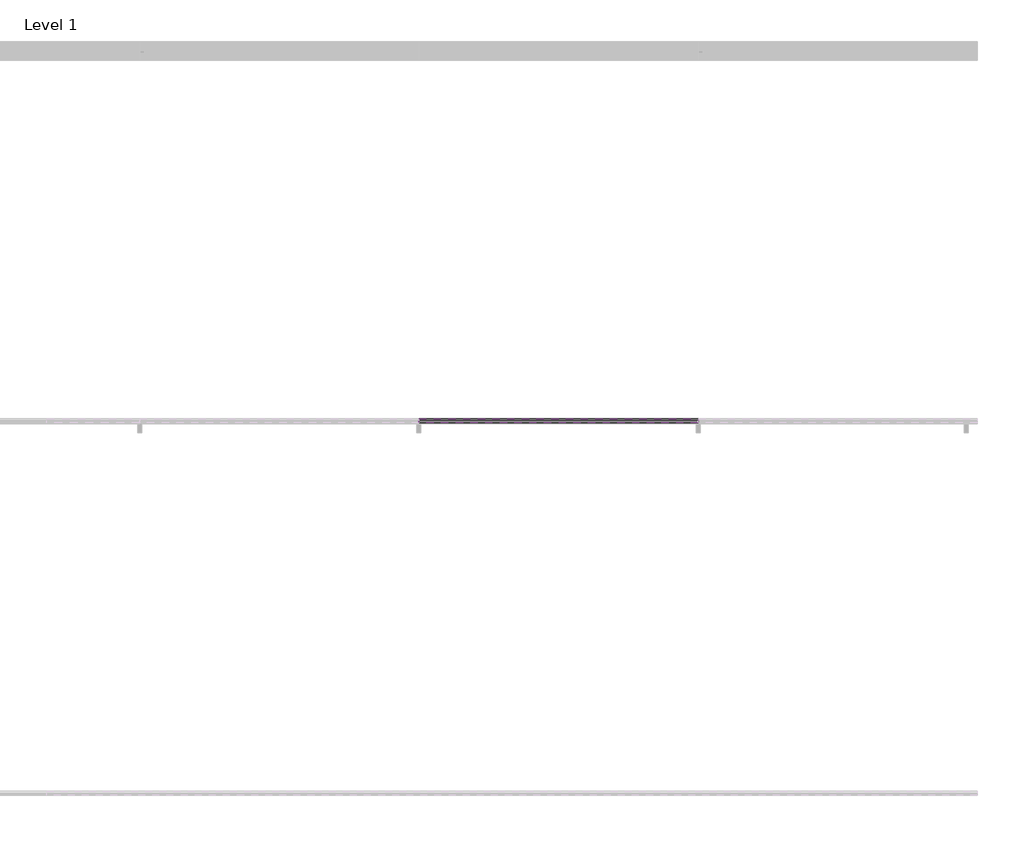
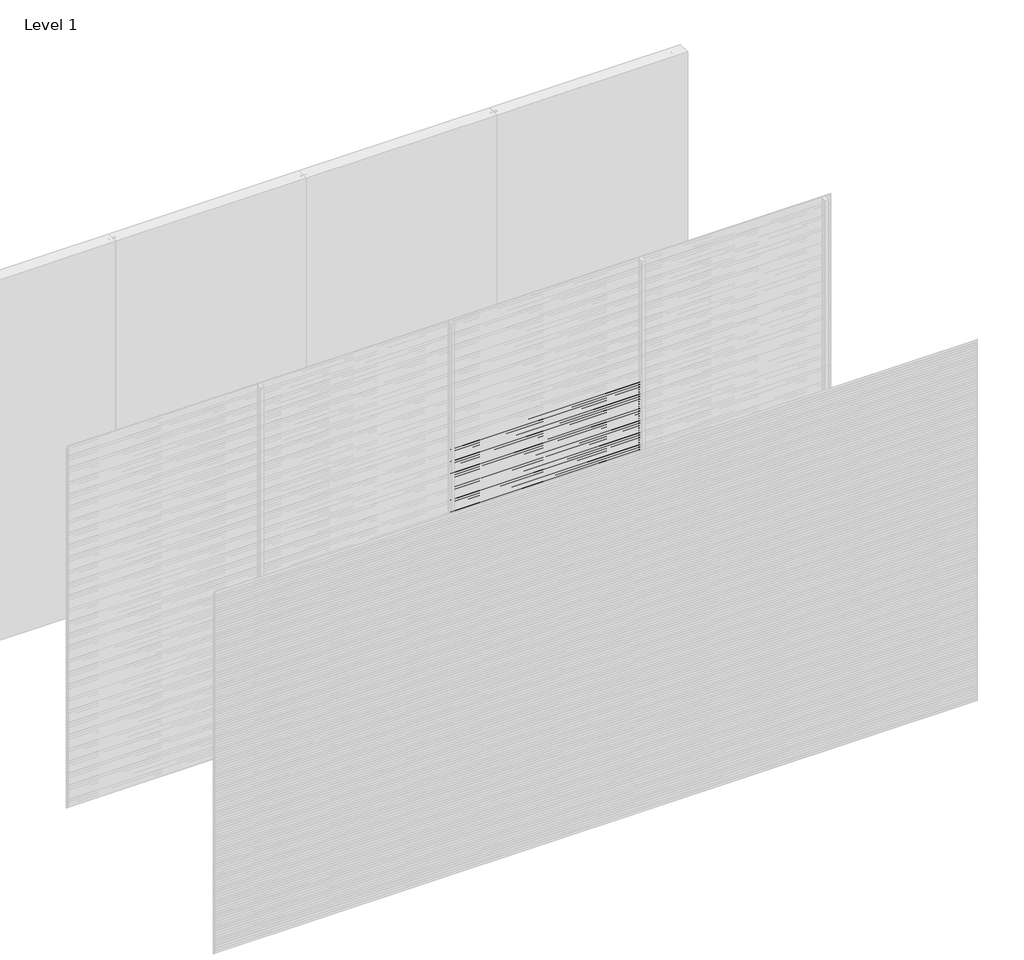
# One storey, part 22 of 31: 99 proxies.
"""IFC4 building model written with IfcOpenShell, lengths in millimetres."""

from ifc_helpers import new_model, si_unit, frame, origin, place, context, project, spatial, polyline, outline, extrude, element, save

model = new_model("IFC4")

# Units and contexts
model_context = context("Model", 3, world=origin())
ifc_project = project(units=[si_unit("LENGTHUNIT", "METRE", prefix="MILLI")], contexts=[model_context])

# Site, building, storey
site = spatial("IfcSite", under=ifc_project)
building = spatial("IfcBuilding", under=site)
storey = spatial("IfcBuildingStorey", under=building, Name="Level 1", Elevation=0.0)

# Proxies
placement = place(None, origin())
element("IfcBuildingElementProxy", 1, Name="Wall Sweeps", at=placement, inside=storey, context=model_context, shape_type="SweptSolid", body=[
    extrude(outline(polyline([(-5995.0, 1980.0), (-5995.0, 1968.942893), (-5976.0, 1953.0), (-5976.0, 1940.0), (-5997.0, 1957.6210923), (-5997.0, 1980.0), (-5995.0, 1980.0)])), frame((3000.0, 0.0, 0.0), z_axis=(1.0, 0.0, 0.0), x_axis=(0.0, 1.0, 0.0)), (0.0, 0.0, 1.0), 1500.0),
])
element("IfcBuildingElementProxy", 2, Name="Wall Sweeps", at=placement, inside=storey, context=model_context, shape_type="SweptSolid", body=[
    extrude(outline(polyline([(-5995.0, 1960.0), (-5995.0, 1948.942893), (-5976.0, 1933.0), (-5976.0, 1920.0), (-5997.0, 1937.6210923), (-5997.0, 1960.0), (-5995.0, 1960.0)])), frame((3000.0, 0.0, 0.0), z_axis=(1.0, 0.0, 0.0), x_axis=(0.0, 1.0, 0.0)), (0.0, 0.0, 1.0), 1500.0),
])
element("IfcBuildingElementProxy", 3, Name="Wall Sweeps", at=placement, inside=storey, context=model_context, shape_type="SweptSolid", body=[
    extrude(outline(polyline([(-5995.0, 1940.0), (-5995.0, 1928.942893), (-5976.0, 1913.0), (-5976.0, 1900.0), (-5997.0, 1917.6210923), (-5997.0, 1940.0), (-5995.0, 1940.0)])), frame((3000.0, 0.0, 0.0), z_axis=(1.0, 0.0, 0.0), x_axis=(0.0, 1.0, 0.0)), (0.0, 0.0, 1.0), 1500.0),
])
element("IfcBuildingElementProxy", 4, Name="Wall Sweeps", at=placement, inside=storey, context=model_context, shape_type="SweptSolid", body=[
    extrude(outline(polyline([(-5995.0, 1920.0), (-5995.0, 1908.942893), (-5976.0, 1893.0), (-5976.0, 1880.0), (-5997.0, 1897.6210923), (-5997.0, 1920.0), (-5995.0, 1920.0)])), frame((3000.0, 0.0, 0.0), z_axis=(1.0, 0.0, 0.0), x_axis=(0.0, 1.0, 0.0)), (0.0, 0.0, 1.0), 1500.0),
])
element("IfcBuildingElementProxy", 5, Name="Wall Sweeps", at=placement, inside=storey, context=model_context, shape_type="SweptSolid", body=[
    extrude(outline(polyline([(-5995.0, 1900.0), (-5995.0, 1888.942893), (-5976.0, 1873.0), (-5976.0, 1860.0), (-5997.0, 1877.6210923), (-5997.0, 1900.0), (-5995.0, 1900.0)])), frame((3000.0, 0.0, 0.0), z_axis=(1.0, 0.0, 0.0), x_axis=(0.0, 1.0, 0.0)), (0.0, 0.0, 1.0), 1500.0),
])
element("IfcBuildingElementProxy", 6, Name="Wall Sweeps", at=placement, inside=storey, context=model_context, shape_type="SweptSolid", body=[
    extrude(outline(polyline([(-5995.0, 1880.0), (-5995.0, 1868.942893), (-5976.0, 1853.0), (-5976.0, 1840.0), (-5997.0, 1857.6210923), (-5997.0, 1880.0), (-5995.0, 1880.0)])), frame((3000.0, 0.0, 0.0), z_axis=(1.0, 0.0, 0.0), x_axis=(0.0, 1.0, 0.0)), (0.0, 0.0, 1.0), 1500.0),
])
element("IfcBuildingElementProxy", 7, Name="Wall Sweeps", at=placement, inside=storey, context=model_context, shape_type="SweptSolid", body=[
    extrude(outline(polyline([(-5995.0, 1860.0), (-5995.0, 1848.942893), (-5976.0, 1833.0), (-5976.0, 1820.0), (-5997.0, 1837.6210923), (-5997.0, 1860.0), (-5995.0, 1860.0)])), frame((3000.0, 0.0, 0.0), z_axis=(1.0, 0.0, 0.0), x_axis=(0.0, 1.0, 0.0)), (0.0, 0.0, 1.0), 1500.0),
])
element("IfcBuildingElementProxy", 8, Name="Wall Sweeps", at=placement, inside=storey, context=model_context, shape_type="SweptSolid", body=[
    extrude(outline(polyline([(-5995.0, 1840.0), (-5995.0, 1828.942893), (-5976.0, 1813.0), (-5976.0, 1800.0), (-5997.0, 1817.6210923), (-5997.0, 1840.0), (-5995.0, 1840.0)])), frame((3000.0, 0.0, 0.0), z_axis=(1.0, 0.0, 0.0), x_axis=(0.0, 1.0, 0.0)), (0.0, 0.0, 1.0), 1500.0),
])
element("IfcBuildingElementProxy", 9, Name="Wall Sweeps", at=placement, inside=storey, context=model_context, shape_type="SweptSolid", body=[
    extrude(outline(polyline([(-5995.0, 1820.0), (-5995.0, 1808.942893), (-5976.0, 1793.0), (-5976.0, 1780.0), (-5997.0, 1797.6210923), (-5997.0, 1820.0), (-5995.0, 1820.0)])), frame((3000.0, 0.0, 0.0), z_axis=(1.0, 0.0, 0.0), x_axis=(0.0, 1.0, 0.0)), (0.0, 0.0, 1.0), 1500.0),
])
element("IfcBuildingElementProxy", 10, Name="Wall Sweeps", at=placement, inside=storey, context=model_context, shape_type="SweptSolid", body=[
    extrude(outline(polyline([(-5995.0, 1800.0), (-5995.0, 1788.942893), (-5976.0, 1773.0), (-5976.0, 1760.0), (-5997.0, 1777.6210923), (-5997.0, 1800.0), (-5995.0, 1800.0)])), frame((3000.0, 0.0, 0.0), z_axis=(1.0, 0.0, 0.0), x_axis=(0.0, 1.0, 0.0)), (0.0, 0.0, 1.0), 1500.0),
])
element("IfcBuildingElementProxy", 11, Name="Wall Sweeps", at=placement, inside=storey, context=model_context, shape_type="SweptSolid", body=[
    extrude(outline(polyline([(-5995.0, 1780.0), (-5995.0, 1768.942893), (-5976.0, 1753.0), (-5976.0, 1740.0), (-5997.0, 1757.6210923), (-5997.0, 1780.0), (-5995.0, 1780.0)])), frame((3000.0, 0.0, 0.0), z_axis=(1.0, 0.0, 0.0), x_axis=(0.0, 1.0, 0.0)), (0.0, 0.0, 1.0), 1500.0),
])
element("IfcBuildingElementProxy", 12, Name="Wall Sweeps", at=placement, inside=storey, context=model_context, shape_type="SweptSolid", body=[
    extrude(outline(polyline([(-5995.0, 1760.0), (-5995.0, 1748.942893), (-5976.0, 1733.0), (-5976.0, 1720.0), (-5997.0, 1737.6210923), (-5997.0, 1760.0), (-5995.0, 1760.0)])), frame((3000.0, 0.0, 0.0), z_axis=(1.0, 0.0, 0.0), x_axis=(0.0, 1.0, 0.0)), (0.0, 0.0, 1.0), 1500.0),
])
element("IfcBuildingElementProxy", 13, Name="Wall Sweeps", at=placement, inside=storey, context=model_context, shape_type="SweptSolid", body=[
    extrude(outline(polyline([(-5995.0, 1740.0), (-5995.0, 1728.942893), (-5976.0, 1713.0), (-5976.0, 1700.0), (-5997.0, 1717.6210923), (-5997.0, 1740.0), (-5995.0, 1740.0)])), frame((3000.0, 0.0, 0.0), z_axis=(1.0, 0.0, 0.0), x_axis=(0.0, 1.0, 0.0)), (0.0, 0.0, 1.0), 1500.0),
])
element("IfcBuildingElementProxy", 14, Name="Wall Sweeps", at=placement, inside=storey, context=model_context, shape_type="SweptSolid", body=[
    extrude(outline(polyline([(-5995.0, 1720.0), (-5995.0, 1708.942893), (-5976.0, 1693.0), (-5976.0, 1680.0), (-5997.0, 1697.6210923), (-5997.0, 1720.0), (-5995.0, 1720.0)])), frame((3000.0, 0.0, 0.0), z_axis=(1.0, 0.0, 0.0), x_axis=(0.0, 1.0, 0.0)), (0.0, 0.0, 1.0), 1500.0),
])
element("IfcBuildingElementProxy", 15, Name="Wall Sweeps", at=placement, inside=storey, context=model_context, shape_type="SweptSolid", body=[
    extrude(outline(polyline([(-5995.0, 1700.0), (-5995.0, 1688.942893), (-5976.0, 1673.0), (-5976.0, 1660.0), (-5997.0, 1677.6210923), (-5997.0, 1700.0), (-5995.0, 1700.0)])), frame((3000.0, 0.0, 0.0), z_axis=(1.0, 0.0, 0.0), x_axis=(0.0, 1.0, 0.0)), (0.0, 0.0, 1.0), 1500.0),
])
element("IfcBuildingElementProxy", 16, Name="Wall Sweeps", at=placement, inside=storey, context=model_context, shape_type="SweptSolid", body=[
    extrude(outline(polyline([(-5995.0, 1680.0), (-5995.0, 1668.942893), (-5976.0, 1653.0), (-5976.0, 1640.0), (-5997.0, 1657.6210923), (-5997.0, 1680.0), (-5995.0, 1680.0)])), frame((3000.0, 0.0, 0.0), z_axis=(1.0, 0.0, 0.0), x_axis=(0.0, 1.0, 0.0)), (0.0, 0.0, 1.0), 1500.0),
])
element("IfcBuildingElementProxy", 17, Name="Wall Sweeps", at=placement, inside=storey, context=model_context, shape_type="SweptSolid", body=[
    extrude(outline(polyline([(-5995.0, 1660.0), (-5995.0, 1648.942893), (-5976.0, 1633.0), (-5976.0, 1620.0), (-5997.0, 1637.6210923), (-5997.0, 1660.0), (-5995.0, 1660.0)])), frame((3000.0, 0.0, 0.0), z_axis=(1.0, 0.0, 0.0), x_axis=(0.0, 1.0, 0.0)), (0.0, 0.0, 1.0), 1500.0),
])
element("IfcBuildingElementProxy", 18, Name="Wall Sweeps", at=placement, inside=storey, context=model_context, shape_type="SweptSolid", body=[
    extrude(outline(polyline([(-5995.0, 1640.0), (-5995.0, 1628.942893), (-5976.0, 1613.0), (-5976.0, 1600.0), (-5997.0, 1617.6210923), (-5997.0, 1640.0), (-5995.0, 1640.0)])), frame((3000.0, 0.0, 0.0), z_axis=(1.0, 0.0, 0.0), x_axis=(0.0, 1.0, 0.0)), (0.0, 0.0, 1.0), 1500.0),
])
element("IfcBuildingElementProxy", 19, Name="Wall Sweeps", at=placement, inside=storey, context=model_context, shape_type="SweptSolid", body=[
    extrude(outline(polyline([(-5995.0, 1620.0), (-5995.0, 1608.942893), (-5976.0, 1593.0), (-5976.0, 1580.0), (-5997.0, 1597.6210923), (-5997.0, 1620.0), (-5995.0, 1620.0)])), frame((3000.0, 0.0, 0.0), z_axis=(1.0, 0.0, 0.0), x_axis=(0.0, 1.0, 0.0)), (0.0, 0.0, 1.0), 1500.0),
])
element("IfcBuildingElementProxy", 20, Name="Wall Sweeps", at=placement, inside=storey, context=model_context, shape_type="SweptSolid", body=[
    extrude(outline(polyline([(-5995.0, 1600.0), (-5995.0, 1588.942893), (-5976.0, 1573.0), (-5976.0, 1560.0), (-5997.0, 1577.6210923), (-5997.0, 1600.0), (-5995.0, 1600.0)])), frame((3000.0, 0.0, 0.0), z_axis=(1.0, 0.0, 0.0), x_axis=(0.0, 1.0, 0.0)), (0.0, 0.0, 1.0), 1500.0),
])
element("IfcBuildingElementProxy", 21, Name="Wall Sweeps", at=placement, inside=storey, context=model_context, shape_type="SweptSolid", body=[
    extrude(outline(polyline([(-5995.0, 1580.0), (-5995.0, 1568.942893), (-5976.0, 1553.0), (-5976.0, 1540.0), (-5997.0, 1557.6210923), (-5997.0, 1580.0), (-5995.0, 1580.0)])), frame((3000.0, 0.0, 0.0), z_axis=(1.0, 0.0, 0.0), x_axis=(0.0, 1.0, 0.0)), (0.0, 0.0, 1.0), 1500.0),
])
element("IfcBuildingElementProxy", 22, Name="Wall Sweeps", at=placement, inside=storey, context=model_context, shape_type="SweptSolid", body=[
    extrude(outline(polyline([(-5995.0, 1560.0), (-5995.0, 1548.942893), (-5976.0, 1533.0), (-5976.0, 1520.0), (-5997.0, 1537.6210923), (-5997.0, 1560.0), (-5995.0, 1560.0)])), frame((3000.0, 0.0, 0.0), z_axis=(1.0, 0.0, 0.0), x_axis=(0.0, 1.0, 0.0)), (0.0, 0.0, 1.0), 1500.0),
])
element("IfcBuildingElementProxy", 23, Name="Wall Sweeps", at=placement, inside=storey, context=model_context, shape_type="SweptSolid", body=[
    extrude(outline(polyline([(-5995.0, 1540.0), (-5995.0, 1528.942893), (-5976.0, 1513.0), (-5976.0, 1500.0), (-5997.0, 1517.6210923), (-5997.0, 1540.0), (-5995.0, 1540.0)])), frame((3000.0, 0.0, 0.0), z_axis=(1.0, 0.0, 0.0), x_axis=(0.0, 1.0, 0.0)), (0.0, 0.0, 1.0), 1500.0),
])
element("IfcBuildingElementProxy", 24, Name="Wall Sweeps", at=placement, inside=storey, context=model_context, shape_type="SweptSolid", body=[
    extrude(outline(polyline([(-5995.0, 1520.0), (-5995.0, 1508.942893), (-5976.0, 1493.0), (-5976.0, 1480.0), (-5997.0, 1497.6210923), (-5997.0, 1520.0), (-5995.0, 1520.0)])), frame((3000.0, 0.0, 0.0), z_axis=(1.0, 0.0, 0.0), x_axis=(0.0, 1.0, 0.0)), (0.0, 0.0, 1.0), 1500.0),
])
element("IfcBuildingElementProxy", 25, Name="Wall Sweeps", at=placement, inside=storey, context=model_context, shape_type="SweptSolid", body=[
    extrude(outline(polyline([(-5995.0, 1500.0), (-5995.0, 1488.942893), (-5976.0, 1473.0), (-5976.0, 1460.0), (-5997.0, 1477.6210923), (-5997.0, 1500.0), (-5995.0, 1500.0)])), frame((3000.0, 0.0, 0.0), z_axis=(1.0, 0.0, 0.0), x_axis=(0.0, 1.0, 0.0)), (0.0, 0.0, 1.0), 1500.0),
])
element("IfcBuildingElementProxy", 26, Name="Wall Sweeps", at=placement, inside=storey, context=model_context, shape_type="SweptSolid", body=[
    extrude(outline(polyline([(-5995.0, 1480.0), (-5995.0, 1468.942893), (-5976.0, 1453.0), (-5976.0, 1440.0), (-5997.0, 1457.6210923), (-5997.0, 1480.0), (-5995.0, 1480.0)])), frame((3000.0, 0.0, 0.0), z_axis=(1.0, 0.0, 0.0), x_axis=(0.0, 1.0, 0.0)), (0.0, 0.0, 1.0), 1500.0),
])
element("IfcBuildingElementProxy", 27, Name="Wall Sweeps", at=placement, inside=storey, context=model_context, shape_type="SweptSolid", body=[
    extrude(outline(polyline([(-5995.0, 1460.0), (-5995.0, 1448.942893), (-5976.0, 1433.0), (-5976.0, 1420.0), (-5997.0, 1437.6210923), (-5997.0, 1460.0), (-5995.0, 1460.0)])), frame((3000.0, 0.0, 0.0), z_axis=(1.0, 0.0, 0.0), x_axis=(0.0, 1.0, 0.0)), (0.0, 0.0, 1.0), 1500.0),
])
element("IfcBuildingElementProxy", 28, Name="Wall Sweeps", at=placement, inside=storey, context=model_context, shape_type="SweptSolid", body=[
    extrude(outline(polyline([(-5995.0, 1440.0), (-5995.0, 1428.942893), (-5976.0, 1413.0), (-5976.0, 1400.0), (-5997.0, 1417.6210923), (-5997.0, 1440.0), (-5995.0, 1440.0)])), frame((3000.0, 0.0, 0.0), z_axis=(1.0, 0.0, 0.0), x_axis=(0.0, 1.0, 0.0)), (0.0, 0.0, 1.0), 1500.0),
])
element("IfcBuildingElementProxy", 29, Name="Wall Sweeps", at=placement, inside=storey, context=model_context, shape_type="SweptSolid", body=[
    extrude(outline(polyline([(-5995.0, 1420.0), (-5995.0, 1408.942893), (-5976.0, 1393.0), (-5976.0, 1380.0), (-5997.0, 1397.6210923), (-5997.0, 1420.0), (-5995.0, 1420.0)])), frame((3000.0, 0.0, 0.0), z_axis=(1.0, 0.0, 0.0), x_axis=(0.0, 1.0, 0.0)), (0.0, 0.0, 1.0), 1500.0),
])
element("IfcBuildingElementProxy", 30, Name="Wall Sweeps", at=placement, inside=storey, context=model_context, shape_type="SweptSolid", body=[
    extrude(outline(polyline([(-5995.0, 1400.0), (-5995.0, 1388.942893), (-5976.0, 1373.0), (-5976.0, 1360.0), (-5997.0, 1377.6210923), (-5997.0, 1400.0), (-5995.0, 1400.0)])), frame((3000.0, 0.0, 0.0), z_axis=(1.0, 0.0, 0.0), x_axis=(0.0, 1.0, 0.0)), (0.0, 0.0, 1.0), 1500.0),
])
element("IfcBuildingElementProxy", 31, Name="Wall Sweeps", at=placement, inside=storey, context=model_context, shape_type="SweptSolid", body=[
    extrude(outline(polyline([(-5995.0, 1380.0), (-5995.0, 1368.942893), (-5976.0, 1353.0), (-5976.0, 1340.0), (-5997.0, 1357.6210923), (-5997.0, 1380.0), (-5995.0, 1380.0)])), frame((3000.0, 0.0, 0.0), z_axis=(1.0, 0.0, 0.0), x_axis=(0.0, 1.0, 0.0)), (0.0, 0.0, 1.0), 1500.0),
])
element("IfcBuildingElementProxy", 32, Name="Wall Sweeps", at=placement, inside=storey, context=model_context, shape_type="SweptSolid", body=[
    extrude(outline(polyline([(-5995.0, 1360.0), (-5995.0, 1348.942893), (-5976.0, 1333.0), (-5976.0, 1320.0), (-5997.0, 1337.6210923), (-5997.0, 1360.0), (-5995.0, 1360.0)])), frame((3000.0, 0.0, 0.0), z_axis=(1.0, 0.0, 0.0), x_axis=(0.0, 1.0, 0.0)), (0.0, 0.0, 1.0), 1500.0),
])
element("IfcBuildingElementProxy", 33, Name="Wall Sweeps", at=placement, inside=storey, context=model_context, shape_type="SweptSolid", body=[
    extrude(outline(polyline([(-5995.0, 1340.0), (-5995.0, 1328.942893), (-5976.0, 1313.0), (-5976.0, 1300.0), (-5997.0, 1317.6210923), (-5997.0, 1340.0), (-5995.0, 1340.0)])), frame((3000.0, 0.0, 0.0), z_axis=(1.0, 0.0, 0.0), x_axis=(0.0, 1.0, 0.0)), (0.0, 0.0, 1.0), 1500.0),
])
element("IfcBuildingElementProxy", 34, Name="Wall Sweeps", at=placement, inside=storey, context=model_context, shape_type="SweptSolid", body=[
    extrude(outline(polyline([(-5995.0, 1320.0), (-5995.0, 1308.942893), (-5976.0, 1293.0), (-5976.0, 1280.0), (-5997.0, 1297.6210923), (-5997.0, 1320.0), (-5995.0, 1320.0)])), frame((3000.0, 0.0, 0.0), z_axis=(1.0, 0.0, 0.0), x_axis=(0.0, 1.0, 0.0)), (0.0, 0.0, 1.0), 1500.0),
])
element("IfcBuildingElementProxy", 35, Name="Wall Sweeps", at=placement, inside=storey, context=model_context, shape_type="SweptSolid", body=[
    extrude(outline(polyline([(-5995.0, 1300.0), (-5995.0, 1288.942893), (-5976.0, 1273.0), (-5976.0, 1260.0), (-5997.0, 1277.6210923), (-5997.0, 1300.0), (-5995.0, 1300.0)])), frame((3000.0, 0.0, 0.0), z_axis=(1.0, 0.0, 0.0), x_axis=(0.0, 1.0, 0.0)), (0.0, 0.0, 1.0), 1500.0),
])
element("IfcBuildingElementProxy", 36, Name="Wall Sweeps", at=placement, inside=storey, context=model_context, shape_type="SweptSolid", body=[
    extrude(outline(polyline([(-5995.0, 1280.0), (-5995.0, 1268.942893), (-5976.0, 1253.0), (-5976.0, 1240.0), (-5997.0, 1257.6210923), (-5997.0, 1280.0), (-5995.0, 1280.0)])), frame((3000.0, 0.0, 0.0), z_axis=(1.0, 0.0, 0.0), x_axis=(0.0, 1.0, 0.0)), (0.0, 0.0, 1.0), 1500.0),
])
element("IfcBuildingElementProxy", 37, Name="Wall Sweeps", at=placement, inside=storey, context=model_context, shape_type="SweptSolid", body=[
    extrude(outline(polyline([(-5995.0, 1260.0), (-5995.0, 1248.942893), (-5976.0, 1233.0), (-5976.0, 1220.0), (-5997.0, 1237.6210923), (-5997.0, 1260.0), (-5995.0, 1260.0)])), frame((3000.0, 0.0, 0.0), z_axis=(1.0, 0.0, 0.0), x_axis=(0.0, 1.0, 0.0)), (0.0, 0.0, 1.0), 1500.0),
])
element("IfcBuildingElementProxy", 38, Name="Wall Sweeps", at=placement, inside=storey, context=model_context, shape_type="SweptSolid", body=[
    extrude(outline(polyline([(-5995.0, 1240.0), (-5995.0, 1228.942893), (-5976.0, 1213.0), (-5976.0, 1200.0), (-5997.0, 1217.6210923), (-5997.0, 1240.0), (-5995.0, 1240.0)])), frame((3000.0, 0.0, 0.0), z_axis=(1.0, 0.0, 0.0), x_axis=(0.0, 1.0, 0.0)), (0.0, 0.0, 1.0), 1500.0),
])
element("IfcBuildingElementProxy", 39, Name="Wall Sweeps", at=placement, inside=storey, context=model_context, shape_type="SweptSolid", body=[
    extrude(outline(polyline([(-5995.0, 1220.0), (-5995.0, 1208.942893), (-5976.0, 1193.0), (-5976.0, 1180.0), (-5997.0, 1197.6210923), (-5997.0, 1220.0), (-5995.0, 1220.0)])), frame((3000.0, 0.0, 0.0), z_axis=(1.0, 0.0, 0.0), x_axis=(0.0, 1.0, 0.0)), (0.0, 0.0, 1.0), 1500.0),
])
element("IfcBuildingElementProxy", 40, Name="Wall Sweeps", at=placement, inside=storey, context=model_context, shape_type="SweptSolid", body=[
    extrude(outline(polyline([(-5995.0, 1200.0), (-5995.0, 1188.942893), (-5976.0, 1173.0), (-5976.0, 1160.0), (-5997.0, 1177.6210923), (-5997.0, 1200.0), (-5995.0, 1200.0)])), frame((3000.0, 0.0, 0.0), z_axis=(1.0, 0.0, 0.0), x_axis=(0.0, 1.0, 0.0)), (0.0, 0.0, 1.0), 1500.0),
])
element("IfcBuildingElementProxy", 41, Name="Wall Sweeps", at=placement, inside=storey, context=model_context, shape_type="SweptSolid", body=[
    extrude(outline(polyline([(-5995.0, 1180.0), (-5995.0, 1168.942893), (-5976.0, 1153.0), (-5976.0, 1140.0), (-5997.0, 1157.6210923), (-5997.0, 1180.0), (-5995.0, 1180.0)])), frame((3000.0, 0.0, 0.0), z_axis=(1.0, 0.0, 0.0), x_axis=(0.0, 1.0, 0.0)), (0.0, 0.0, 1.0), 1500.0),
])
element("IfcBuildingElementProxy", 42, Name="Wall Sweeps", at=placement, inside=storey, context=model_context, shape_type="SweptSolid", body=[
    extrude(outline(polyline([(-5995.0, 1160.0), (-5995.0, 1148.942893), (-5976.0, 1133.0), (-5976.0, 1120.0), (-5997.0, 1137.6210923), (-5997.0, 1160.0), (-5995.0, 1160.0)])), frame((3000.0, 0.0, 0.0), z_axis=(1.0, 0.0, 0.0), x_axis=(0.0, 1.0, 0.0)), (0.0, 0.0, 1.0), 1500.0),
])
element("IfcBuildingElementProxy", 43, Name="Wall Sweeps", at=placement, inside=storey, context=model_context, shape_type="SweptSolid", body=[
    extrude(outline(polyline([(-5995.0, 1140.0), (-5995.0, 1128.942893), (-5976.0, 1113.0), (-5976.0, 1100.0), (-5997.0, 1117.6210923), (-5997.0, 1140.0), (-5995.0, 1140.0)])), frame((3000.0, 0.0, 0.0), z_axis=(1.0, 0.0, 0.0), x_axis=(0.0, 1.0, 0.0)), (0.0, 0.0, 1.0), 1500.0),
])
element("IfcBuildingElementProxy", 44, Name="Wall Sweeps", at=placement, inside=storey, context=model_context, shape_type="SweptSolid", body=[
    extrude(outline(polyline([(-5995.0, 1120.0), (-5995.0, 1108.942893), (-5976.0, 1093.0), (-5976.0, 1080.0), (-5997.0, 1097.6210923), (-5997.0, 1120.0), (-5995.0, 1120.0)])), frame((3000.0, 0.0, 0.0), z_axis=(1.0, 0.0, 0.0), x_axis=(0.0, 1.0, 0.0)), (0.0, 0.0, 1.0), 1500.0),
])
element("IfcBuildingElementProxy", 45, Name="Wall Sweeps", at=placement, inside=storey, context=model_context, shape_type="SweptSolid", body=[
    extrude(outline(polyline([(-5995.0, 1100.0), (-5995.0, 1088.942893), (-5976.0, 1073.0), (-5976.0, 1060.0), (-5997.0, 1077.6210923), (-5997.0, 1100.0), (-5995.0, 1100.0)])), frame((3000.0, 0.0, 0.0), z_axis=(1.0, 0.0, 0.0), x_axis=(0.0, 1.0, 0.0)), (0.0, 0.0, 1.0), 1500.0),
])
element("IfcBuildingElementProxy", 46, Name="Wall Sweeps", at=placement, inside=storey, context=model_context, shape_type="SweptSolid", body=[
    extrude(outline(polyline([(-5995.0, 1080.0), (-5995.0, 1068.942893), (-5976.0, 1053.0), (-5976.0, 1040.0), (-5997.0, 1057.6210923), (-5997.0, 1080.0), (-5995.0, 1080.0)])), frame((3000.0, 0.0, 0.0), z_axis=(1.0, 0.0, 0.0), x_axis=(0.0, 1.0, 0.0)), (0.0, 0.0, 1.0), 1500.0),
])
element("IfcBuildingElementProxy", 47, Name="Wall Sweeps", at=placement, inside=storey, context=model_context, shape_type="SweptSolid", body=[
    extrude(outline(polyline([(-5995.0, 1060.0), (-5995.0, 1048.942893), (-5976.0, 1033.0), (-5976.0, 1020.0), (-5997.0, 1037.6210923), (-5997.0, 1060.0), (-5995.0, 1060.0)])), frame((3000.0, 0.0, 0.0), z_axis=(1.0, 0.0, 0.0), x_axis=(0.0, 1.0, 0.0)), (0.0, 0.0, 1.0), 1500.0),
])
element("IfcBuildingElementProxy", 48, Name="Wall Sweeps", at=placement, inside=storey, context=model_context, shape_type="SweptSolid", body=[
    extrude(outline(polyline([(-5995.0, 1040.0), (-5995.0, 1028.942893), (-5976.0, 1013.0), (-5976.0, 1000.0), (-5997.0, 1017.6210923), (-5997.0, 1040.0), (-5995.0, 1040.0)])), frame((3000.0, 0.0, 0.0), z_axis=(1.0, 0.0, 0.0), x_axis=(0.0, 1.0, 0.0)), (0.0, 0.0, 1.0), 1500.0),
])
element("IfcBuildingElementProxy", 49, Name="Wall Sweeps", at=placement, inside=storey, context=model_context, shape_type="SweptSolid", body=[
    extrude(outline(polyline([(-5995.0, 1020.0), (-5995.0, 1008.942893), (-5976.0, 993.0), (-5976.0, 980.0), (-5997.0, 997.6210923), (-5997.0, 1020.0), (-5995.0, 1020.0)])), frame((3000.0, 0.0, 0.0), z_axis=(1.0, 0.0, 0.0), x_axis=(0.0, 1.0, 0.0)), (0.0, 0.0, 1.0), 1500.0),
])
element("IfcBuildingElementProxy", 50, Name="Wall Sweeps", at=placement, inside=storey, context=model_context, shape_type="SweptSolid", body=[
    extrude(outline(polyline([(-5995.0, 1000.0), (-5995.0, 988.942893), (-5976.0, 973.0), (-5976.0, 960.0), (-5997.0, 977.6210923), (-5997.0, 1000.0), (-5995.0, 1000.0)])), frame((3000.0, 0.0, 0.0), z_axis=(1.0, 0.0, 0.0), x_axis=(0.0, 1.0, 0.0)), (0.0, 0.0, 1.0), 1500.0),
])
element("IfcBuildingElementProxy", 51, Name="Wall Sweeps", at=placement, inside=storey, context=model_context, shape_type="SweptSolid", body=[
    extrude(outline(polyline([(-5995.0, 980.0), (-5995.0, 968.942893), (-5976.0, 953.0), (-5976.0, 940.0), (-5997.0, 957.6210923), (-5997.0, 980.0), (-5995.0, 980.0)])), frame((3000.0, 0.0, 0.0), z_axis=(1.0, 0.0, 0.0), x_axis=(0.0, 1.0, 0.0)), (0.0, 0.0, 1.0), 1500.0),
])
element("IfcBuildingElementProxy", 52, Name="Wall Sweeps", at=placement, inside=storey, context=model_context, shape_type="SweptSolid", body=[
    extrude(outline(polyline([(-5995.0, 960.0), (-5995.0, 948.942893), (-5976.0, 933.0), (-5976.0, 920.0), (-5997.0, 937.6210923), (-5997.0, 960.0), (-5995.0, 960.0)])), frame((3000.0, 0.0, 0.0), z_axis=(1.0, 0.0, 0.0), x_axis=(0.0, 1.0, 0.0)), (0.0, 0.0, 1.0), 1500.0),
])
element("IfcBuildingElementProxy", 53, Name="Wall Sweeps", at=placement, inside=storey, context=model_context, shape_type="SweptSolid", body=[
    extrude(outline(polyline([(-5995.0, 940.0), (-5995.0, 928.942893), (-5976.0, 913.0), (-5976.0, 900.0), (-5997.0, 917.6210923), (-5997.0, 940.0), (-5995.0, 940.0)])), frame((3000.0, 0.0, 0.0), z_axis=(1.0, 0.0, 0.0), x_axis=(0.0, 1.0, 0.0)), (0.0, 0.0, 1.0), 1500.0),
])
element("IfcBuildingElementProxy", 54, Name="Wall Sweeps", at=placement, inside=storey, context=model_context, shape_type="SweptSolid", body=[
    extrude(outline(polyline([(-5995.0, 920.0), (-5995.0, 908.942893), (-5976.0, 893.0), (-5976.0, 880.0), (-5997.0, 897.6210923), (-5997.0, 920.0), (-5995.0, 920.0)])), frame((3000.0, 0.0, 0.0), z_axis=(1.0, 0.0, 0.0), x_axis=(0.0, 1.0, 0.0)), (0.0, 0.0, 1.0), 1500.0),
])
element("IfcBuildingElementProxy", 55, Name="Wall Sweeps", at=placement, inside=storey, context=model_context, shape_type="SweptSolid", body=[
    extrude(outline(polyline([(-5995.0, 900.0), (-5995.0, 888.942893), (-5976.0, 873.0), (-5976.0, 860.0), (-5997.0, 877.6210923), (-5997.0, 900.0), (-5995.0, 900.0)])), frame((3000.0, 0.0, 0.0), z_axis=(1.0, 0.0, 0.0), x_axis=(0.0, 1.0, 0.0)), (0.0, 0.0, 1.0), 1500.0),
])
element("IfcBuildingElementProxy", 56, Name="Wall Sweeps", at=placement, inside=storey, context=model_context, shape_type="SweptSolid", body=[
    extrude(outline(polyline([(-5995.0, 880.0), (-5995.0, 868.942893), (-5976.0, 853.0), (-5976.0, 840.0), (-5997.0, 857.6210923), (-5997.0, 880.0), (-5995.0, 880.0)])), frame((3000.0, 0.0, 0.0), z_axis=(1.0, 0.0, 0.0), x_axis=(0.0, 1.0, 0.0)), (0.0, 0.0, 1.0), 1500.0),
])
element("IfcBuildingElementProxy", 57, Name="Wall Sweeps", at=placement, inside=storey, context=model_context, shape_type="SweptSolid", body=[
    extrude(outline(polyline([(-5995.0, 860.0), (-5995.0, 848.942893), (-5976.0, 833.0), (-5976.0, 820.0), (-5997.0, 837.6210923), (-5997.0, 860.0), (-5995.0, 860.0)])), frame((3000.0, 0.0, 0.0), z_axis=(1.0, 0.0, 0.0), x_axis=(0.0, 1.0, 0.0)), (0.0, 0.0, 1.0), 1500.0),
])
element("IfcBuildingElementProxy", 58, Name="Wall Sweeps", at=placement, inside=storey, context=model_context, shape_type="SweptSolid", body=[
    extrude(outline(polyline([(-5995.0, 840.0), (-5995.0, 828.942893), (-5976.0, 813.0), (-5976.0, 800.0), (-5997.0, 817.6210923), (-5997.0, 840.0), (-5995.0, 840.0)])), frame((3000.0, 0.0, 0.0), z_axis=(1.0, 0.0, 0.0), x_axis=(0.0, 1.0, 0.0)), (0.0, 0.0, 1.0), 1500.0),
])
element("IfcBuildingElementProxy", 59, Name="Wall Sweeps", at=placement, inside=storey, context=model_context, shape_type="SweptSolid", body=[
    extrude(outline(polyline([(-5995.0, 820.0), (-5995.0, 808.942893), (-5976.0, 793.0), (-5976.0, 780.0), (-5997.0, 797.6210923), (-5997.0, 820.0), (-5995.0, 820.0)])), frame((3000.0, 0.0, 0.0), z_axis=(1.0, 0.0, 0.0), x_axis=(0.0, 1.0, 0.0)), (0.0, 0.0, 1.0), 1500.0),
])
element("IfcBuildingElementProxy", 60, Name="Wall Sweeps", at=placement, inside=storey, context=model_context, shape_type="SweptSolid", body=[
    extrude(outline(polyline([(-5995.0, 800.0), (-5995.0, 788.942893), (-5976.0, 773.0), (-5976.0, 760.0), (-5997.0, 777.6210923), (-5997.0, 800.0), (-5995.0, 800.0)])), frame((3000.0, 0.0, 0.0), z_axis=(1.0, 0.0, 0.0), x_axis=(0.0, 1.0, 0.0)), (0.0, 0.0, 1.0), 1500.0),
])
element("IfcBuildingElementProxy", 61, Name="Wall Sweeps", at=placement, inside=storey, context=model_context, shape_type="SweptSolid", body=[
    extrude(outline(polyline([(-5995.0, 780.0), (-5995.0, 768.942893), (-5976.0, 753.0), (-5976.0, 740.0), (-5997.0, 757.6210923), (-5997.0, 780.0), (-5995.0, 780.0)])), frame((3000.0, 0.0, 0.0), z_axis=(1.0, 0.0, 0.0), x_axis=(0.0, 1.0, 0.0)), (0.0, 0.0, 1.0), 1500.0),
])
element("IfcBuildingElementProxy", 62, Name="Wall Sweeps", at=placement, inside=storey, context=model_context, shape_type="SweptSolid", body=[
    extrude(outline(polyline([(-5995.0, 760.0), (-5995.0, 748.942893), (-5976.0, 733.0), (-5976.0, 720.0), (-5997.0, 737.6210923), (-5997.0, 760.0), (-5995.0, 760.0)])), frame((3000.0, 0.0, 0.0), z_axis=(1.0, 0.0, 0.0), x_axis=(0.0, 1.0, 0.0)), (0.0, 0.0, 1.0), 1500.0),
])
element("IfcBuildingElementProxy", 63, Name="Wall Sweeps", at=placement, inside=storey, context=model_context, shape_type="SweptSolid", body=[
    extrude(outline(polyline([(-5995.0, 740.0), (-5995.0, 728.942893), (-5976.0, 713.0), (-5976.0, 700.0), (-5997.0, 717.6210923), (-5997.0, 740.0), (-5995.0, 740.0)])), frame((3000.0, 0.0, 0.0), z_axis=(1.0, 0.0, 0.0), x_axis=(0.0, 1.0, 0.0)), (0.0, 0.0, 1.0), 1500.0),
])
element("IfcBuildingElementProxy", 64, Name="Wall Sweeps", at=placement, inside=storey, context=model_context, shape_type="SweptSolid", body=[
    extrude(outline(polyline([(-5995.0, 720.0), (-5995.0, 708.942893), (-5976.0, 693.0), (-5976.0, 680.0), (-5997.0, 697.6210923), (-5997.0, 720.0), (-5995.0, 720.0)])), frame((3000.0, 0.0, 0.0), z_axis=(1.0, 0.0, 0.0), x_axis=(0.0, 1.0, 0.0)), (0.0, 0.0, 1.0), 1500.0),
])
element("IfcBuildingElementProxy", 65, Name="Wall Sweeps", at=placement, inside=storey, context=model_context, shape_type="SweptSolid", body=[
    extrude(outline(polyline([(-5995.0, 700.0), (-5995.0, 688.942893), (-5976.0, 673.0), (-5976.0, 660.0), (-5997.0, 677.6210923), (-5997.0, 700.0), (-5995.0, 700.0)])), frame((3000.0, 0.0, 0.0), z_axis=(1.0, 0.0, 0.0), x_axis=(0.0, 1.0, 0.0)), (0.0, 0.0, 1.0), 1500.0),
])
element("IfcBuildingElementProxy", 66, Name="Wall Sweeps", at=placement, inside=storey, context=model_context, shape_type="SweptSolid", body=[
    extrude(outline(polyline([(-5995.0, 680.0), (-5995.0, 668.942893), (-5976.0, 653.0), (-5976.0, 640.0), (-5997.0, 657.6210923), (-5997.0, 680.0), (-5995.0, 680.0)])), frame((3000.0, 0.0, 0.0), z_axis=(1.0, 0.0, 0.0), x_axis=(0.0, 1.0, 0.0)), (0.0, 0.0, 1.0), 1500.0),
])
element("IfcBuildingElementProxy", 67, Name="Wall Sweeps", at=placement, inside=storey, context=model_context, shape_type="SweptSolid", body=[
    extrude(outline(polyline([(-5995.0, 660.0), (-5995.0, 648.942893), (-5976.0, 633.0), (-5976.0, 620.0), (-5997.0, 637.6210923), (-5997.0, 660.0), (-5995.0, 660.0)])), frame((3000.0, 0.0, 0.0), z_axis=(1.0, 0.0, 0.0), x_axis=(0.0, 1.0, 0.0)), (0.0, 0.0, 1.0), 1500.0),
])
element("IfcBuildingElementProxy", 68, Name="Wall Sweeps", at=placement, inside=storey, context=model_context, shape_type="SweptSolid", body=[
    extrude(outline(polyline([(-5995.0, 640.0), (-5995.0, 628.942893), (-5976.0, 613.0), (-5976.0, 600.0), (-5997.0, 617.6210923), (-5997.0, 640.0), (-5995.0, 640.0)])), frame((3000.0, 0.0, 0.0), z_axis=(1.0, 0.0, 0.0), x_axis=(0.0, 1.0, 0.0)), (0.0, 0.0, 1.0), 1500.0),
])
element("IfcBuildingElementProxy", 69, Name="Wall Sweeps", at=placement, inside=storey, context=model_context, shape_type="SweptSolid", body=[
    extrude(outline(polyline([(-5995.0, 620.0), (-5995.0, 608.942893), (-5976.0, 593.0), (-5976.0, 580.0), (-5997.0, 597.6210923), (-5997.0, 620.0), (-5995.0, 620.0)])), frame((3000.0, 0.0, 0.0), z_axis=(1.0, 0.0, 0.0), x_axis=(0.0, 1.0, 0.0)), (0.0, 0.0, 1.0), 1500.0),
])
element("IfcBuildingElementProxy", 70, Name="Wall Sweeps", at=placement, inside=storey, context=model_context, shape_type="SweptSolid", body=[
    extrude(outline(polyline([(-5995.0, 600.0), (-5995.0, 588.942893), (-5976.0, 573.0), (-5976.0, 560.0), (-5997.0, 577.6210923), (-5997.0, 600.0), (-5995.0, 600.0)])), frame((3000.0, 0.0, 0.0), z_axis=(1.0, 0.0, 0.0), x_axis=(0.0, 1.0, 0.0)), (0.0, 0.0, 1.0), 1500.0),
])
element("IfcBuildingElementProxy", 71, Name="Wall Sweeps", at=placement, inside=storey, context=model_context, shape_type="SweptSolid", body=[
    extrude(outline(polyline([(-5995.0, 580.0), (-5995.0, 568.942893), (-5976.0, 553.0), (-5976.0, 540.0), (-5997.0, 557.6210923), (-5997.0, 580.0), (-5995.0, 580.0)])), frame((3000.0, 0.0, 0.0), z_axis=(1.0, 0.0, 0.0), x_axis=(0.0, 1.0, 0.0)), (0.0, 0.0, 1.0), 1500.0),
])
element("IfcBuildingElementProxy", 72, Name="Wall Sweeps", at=placement, inside=storey, context=model_context, shape_type="SweptSolid", body=[
    extrude(outline(polyline([(-5995.0, 560.0), (-5995.0, 548.942893), (-5976.0, 533.0), (-5976.0, 520.0), (-5997.0, 537.6210923), (-5997.0, 560.0), (-5995.0, 560.0)])), frame((3000.0, 0.0, 0.0), z_axis=(1.0, 0.0, 0.0), x_axis=(0.0, 1.0, 0.0)), (0.0, 0.0, 1.0), 1500.0),
])
element("IfcBuildingElementProxy", 73, Name="Wall Sweeps", at=placement, inside=storey, context=model_context, shape_type="SweptSolid", body=[
    extrude(outline(polyline([(-5995.0, 540.0), (-5995.0, 528.942893), (-5976.0, 513.0), (-5976.0, 500.0), (-5997.0, 517.6210923), (-5997.0, 540.0), (-5995.0, 540.0)])), frame((3000.0, 0.0, 0.0), z_axis=(1.0, 0.0, 0.0), x_axis=(0.0, 1.0, 0.0)), (0.0, 0.0, 1.0), 1500.0),
])
element("IfcBuildingElementProxy", 74, Name="Wall Sweeps", at=placement, inside=storey, context=model_context, shape_type="SweptSolid", body=[
    extrude(outline(polyline([(-5995.0, 520.0), (-5995.0, 508.942893), (-5976.0, 493.0), (-5976.0, 480.0), (-5997.0, 497.6210923), (-5997.0, 520.0), (-5995.0, 520.0)])), frame((3000.0, 0.0, 0.0), z_axis=(1.0, 0.0, 0.0), x_axis=(0.0, 1.0, 0.0)), (0.0, 0.0, 1.0), 1500.0),
])
element("IfcBuildingElementProxy", 75, Name="Wall Sweeps", at=placement, inside=storey, context=model_context, shape_type="SweptSolid", body=[
    extrude(outline(polyline([(-5995.0, 500.0), (-5995.0, 488.942893), (-5976.0, 473.0), (-5976.0, 460.0), (-5997.0, 477.6210923), (-5997.0, 500.0), (-5995.0, 500.0)])), frame((3000.0, 0.0, 0.0), z_axis=(1.0, 0.0, 0.0), x_axis=(0.0, 1.0, 0.0)), (0.0, 0.0, 1.0), 1500.0),
])
element("IfcBuildingElementProxy", 76, Name="Wall Sweeps", at=placement, inside=storey, context=model_context, shape_type="SweptSolid", body=[
    extrude(outline(polyline([(-5995.0, 480.0), (-5995.0, 468.942893), (-5976.0, 453.0), (-5976.0, 440.0), (-5997.0, 457.6210923), (-5997.0, 480.0), (-5995.0, 480.0)])), frame((3000.0, 0.0, 0.0), z_axis=(1.0, 0.0, 0.0), x_axis=(0.0, 1.0, 0.0)), (0.0, 0.0, 1.0), 1500.0),
])
element("IfcBuildingElementProxy", 77, Name="Wall Sweeps", at=placement, inside=storey, context=model_context, shape_type="SweptSolid", body=[
    extrude(outline(polyline([(-5995.0, 460.0), (-5995.0, 448.942893), (-5976.0, 433.0), (-5976.0, 420.0), (-5997.0, 437.6210923), (-5997.0, 460.0), (-5995.0, 460.0)])), frame((3000.0, 0.0, 0.0), z_axis=(1.0, 0.0, 0.0), x_axis=(0.0, 1.0, 0.0)), (0.0, 0.0, 1.0), 1500.0),
])
element("IfcBuildingElementProxy", 78, Name="Wall Sweeps", at=placement, inside=storey, context=model_context, shape_type="SweptSolid", body=[
    extrude(outline(polyline([(-5995.0, 440.0), (-5995.0, 428.942893), (-5976.0, 413.0), (-5976.0, 400.0), (-5997.0, 417.6210923), (-5997.0, 440.0), (-5995.0, 440.0)])), frame((3000.0, 0.0, 0.0), z_axis=(1.0, 0.0, 0.0), x_axis=(0.0, 1.0, 0.0)), (0.0, 0.0, 1.0), 1500.0),
])
element("IfcBuildingElementProxy", 79, Name="Wall Sweeps", at=placement, inside=storey, context=model_context, shape_type="SweptSolid", body=[
    extrude(outline(polyline([(-5995.0, 420.0), (-5995.0, 408.942893), (-5976.0, 393.0), (-5976.0, 380.0), (-5997.0, 397.6210923), (-5997.0, 420.0), (-5995.0, 420.0)])), frame((3000.0, 0.0, 0.0), z_axis=(1.0, 0.0, 0.0), x_axis=(0.0, 1.0, 0.0)), (0.0, 0.0, 1.0), 1500.0),
])
element("IfcBuildingElementProxy", 80, Name="Wall Sweeps", at=placement, inside=storey, context=model_context, shape_type="SweptSolid", body=[
    extrude(outline(polyline([(-5995.0, 400.0), (-5995.0, 388.942893), (-5976.0, 373.0), (-5976.0, 360.0), (-5997.0, 377.6210923), (-5997.0, 400.0), (-5995.0, 400.0)])), frame((3000.0, 0.0, 0.0), z_axis=(1.0, 0.0, 0.0), x_axis=(0.0, 1.0, 0.0)), (0.0, 0.0, 1.0), 1500.0),
])
element("IfcBuildingElementProxy", 81, Name="Wall Sweeps", at=placement, inside=storey, context=model_context, shape_type="SweptSolid", body=[
    extrude(outline(polyline([(-5995.0, 380.0), (-5995.0, 368.942893), (-5976.0, 353.0), (-5976.0, 340.0), (-5997.0, 357.6210923), (-5997.0, 380.0), (-5995.0, 380.0)])), frame((3000.0, 0.0, 0.0), z_axis=(1.0, 0.0, 0.0), x_axis=(0.0, 1.0, 0.0)), (0.0, 0.0, 1.0), 1500.0),
])
element("IfcBuildingElementProxy", 82, Name="Wall Sweeps", at=placement, inside=storey, context=model_context, shape_type="SweptSolid", body=[
    extrude(outline(polyline([(-5995.0, 360.0), (-5995.0, 348.942893), (-5976.0, 333.0), (-5976.0, 320.0), (-5997.0, 337.6210923), (-5997.0, 360.0), (-5995.0, 360.0)])), frame((3000.0, 0.0, 0.0), z_axis=(1.0, 0.0, 0.0), x_axis=(0.0, 1.0, 0.0)), (0.0, 0.0, 1.0), 1500.0),
])
element("IfcBuildingElementProxy", 83, Name="Wall Sweeps", at=placement, inside=storey, context=model_context, shape_type="SweptSolid", body=[
    extrude(outline(polyline([(-5995.0, 340.0), (-5995.0, 328.942893), (-5976.0, 313.0), (-5976.0, 300.0), (-5997.0, 317.6210923), (-5997.0, 340.0), (-5995.0, 340.0)])), frame((3000.0, 0.0, 0.0), z_axis=(1.0, 0.0, 0.0), x_axis=(0.0, 1.0, 0.0)), (0.0, 0.0, 1.0), 1500.0),
])
element("IfcBuildingElementProxy", 84, Name="Wall Sweeps", at=placement, inside=storey, context=model_context, shape_type="SweptSolid", body=[
    extrude(outline(polyline([(-5995.0, 320.0), (-5995.0, 308.942893), (-5976.0, 293.0), (-5976.0, 280.0), (-5997.0, 297.6210923), (-5997.0, 320.0), (-5995.0, 320.0)])), frame((3000.0, 0.0, 0.0), z_axis=(1.0, 0.0, 0.0), x_axis=(0.0, 1.0, 0.0)), (0.0, 0.0, 1.0), 1500.0),
])
element("IfcBuildingElementProxy", 85, Name="Wall Sweeps", at=placement, inside=storey, context=model_context, shape_type="SweptSolid", body=[
    extrude(outline(polyline([(-5995.0, 300.0), (-5995.0, 288.942893), (-5976.0, 273.0), (-5976.0, 260.0), (-5997.0, 277.6210923), (-5997.0, 300.0), (-5995.0, 300.0)])), frame((3000.0, 0.0, 0.0), z_axis=(1.0, 0.0, 0.0), x_axis=(0.0, 1.0, 0.0)), (0.0, 0.0, 1.0), 1500.0),
])
element("IfcBuildingElementProxy", 86, Name="Wall Sweeps", at=placement, inside=storey, context=model_context, shape_type="SweptSolid", body=[
    extrude(outline(polyline([(-5995.0, 280.0), (-5995.0, 268.942893), (-5976.0, 253.0), (-5976.0, 240.0), (-5997.0, 257.6210923), (-5997.0, 280.0), (-5995.0, 280.0)])), frame((3000.0, 0.0, 0.0), z_axis=(1.0, 0.0, 0.0), x_axis=(0.0, 1.0, 0.0)), (0.0, 0.0, 1.0), 1500.0),
])
element("IfcBuildingElementProxy", 87, Name="Wall Sweeps", at=placement, inside=storey, context=model_context, shape_type="SweptSolid", body=[
    extrude(outline(polyline([(-5995.0, 260.0), (-5995.0, 248.942893), (-5976.0, 233.0), (-5976.0, 220.0), (-5997.0, 237.6210923), (-5997.0, 260.0), (-5995.0, 260.0)])), frame((3000.0, 0.0, 0.0), z_axis=(1.0, 0.0, 0.0), x_axis=(0.0, 1.0, 0.0)), (0.0, 0.0, 1.0), 1500.0),
])
element("IfcBuildingElementProxy", 88, Name="Wall Sweeps", at=placement, inside=storey, context=model_context, shape_type="SweptSolid", body=[
    extrude(outline(polyline([(-5995.0, 240.0), (-5995.0, 228.942893), (-5976.0, 213.0), (-5976.0, 200.0), (-5997.0, 217.6210923), (-5997.0, 240.0), (-5995.0, 240.0)])), frame((3000.0, 0.0, 0.0), z_axis=(1.0, 0.0, 0.0), x_axis=(0.0, 1.0, 0.0)), (0.0, 0.0, 1.0), 1500.0),
])
element("IfcBuildingElementProxy", 89, Name="Wall Sweeps", at=placement, inside=storey, context=model_context, shape_type="SweptSolid", body=[
    extrude(outline(polyline([(-5995.0, 220.0), (-5995.0, 208.942893), (-5976.0, 193.0), (-5976.0, 180.0), (-5997.0, 197.6210923), (-5997.0, 220.0), (-5995.0, 220.0)])), frame((3000.0, 0.0, 0.0), z_axis=(1.0, 0.0, 0.0), x_axis=(0.0, 1.0, 0.0)), (0.0, 0.0, 1.0), 1500.0),
])
element("IfcBuildingElementProxy", 90, Name="Wall Sweeps", at=placement, inside=storey, context=model_context, shape_type="SweptSolid", body=[
    extrude(outline(polyline([(-5995.0, 200.0), (-5995.0, 188.942893), (-5976.0, 173.0), (-5976.0, 160.0), (-5997.0, 177.6210923), (-5997.0, 200.0), (-5995.0, 200.0)])), frame((3000.0, 0.0, 0.0), z_axis=(1.0, 0.0, 0.0), x_axis=(0.0, 1.0, 0.0)), (0.0, 0.0, 1.0), 1500.0),
])
element("IfcBuildingElementProxy", 91, Name="Wall Sweeps", at=placement, inside=storey, context=model_context, shape_type="SweptSolid", body=[
    extrude(outline(polyline([(-5995.0, 180.0), (-5995.0, 168.942893), (-5976.0, 153.0), (-5976.0, 140.0), (-5997.0, 157.6210923), (-5997.0, 180.0), (-5995.0, 180.0)])), frame((3000.0, 0.0, 0.0), z_axis=(1.0, 0.0, 0.0), x_axis=(0.0, 1.0, 0.0)), (0.0, 0.0, 1.0), 1500.0),
])
element("IfcBuildingElementProxy", 92, Name="Wall Sweeps", at=placement, inside=storey, context=model_context, shape_type="SweptSolid", body=[
    extrude(outline(polyline([(-5995.0, 160.0), (-5995.0, 148.942893), (-5976.0, 133.0), (-5976.0, 120.0), (-5997.0, 137.6210923), (-5997.0, 160.0), (-5995.0, 160.0)])), frame((3000.0, 0.0, 0.0), z_axis=(1.0, 0.0, 0.0), x_axis=(0.0, 1.0, 0.0)), (0.0, 0.0, 1.0), 1500.0),
])
element("IfcBuildingElementProxy", 93, Name="Wall Sweeps", at=placement, inside=storey, context=model_context, shape_type="SweptSolid", body=[
    extrude(outline(polyline([(-5995.0, 140.0), (-5995.0, 128.942893), (-5976.0, 113.0), (-5976.0, 100.0), (-5997.0, 117.6210923), (-5997.0, 140.0), (-5995.0, 140.0)])), frame((3000.0, 0.0, 0.0), z_axis=(1.0, 0.0, 0.0), x_axis=(0.0, 1.0, 0.0)), (0.0, 0.0, 1.0), 1500.0),
])
element("IfcBuildingElementProxy", 94, Name="Wall Sweeps", at=placement, inside=storey, context=model_context, shape_type="SweptSolid", body=[
    extrude(outline(polyline([(-5995.0, 120.0), (-5995.0, 108.942893), (-5976.0, 93.0), (-5976.0, 80.0), (-5997.0, 97.6210923), (-5997.0, 120.0), (-5995.0, 120.0)])), frame((3000.0, 0.0, 0.0), z_axis=(1.0, 0.0, 0.0), x_axis=(0.0, 1.0, 0.0)), (0.0, 0.0, 1.0), 1500.0),
])
element("IfcBuildingElementProxy", 95, Name="Wall Sweeps", at=placement, inside=storey, context=model_context, shape_type="SweptSolid", body=[
    extrude(outline(polyline([(-5995.0, 100.0), (-5995.0, 88.942893), (-5976.0, 73.0), (-5976.0, 60.0), (-5997.0, 77.6210923), (-5997.0, 100.0), (-5995.0, 100.0)])), frame((3000.0, 0.0, 0.0), z_axis=(1.0, 0.0, 0.0), x_axis=(0.0, 1.0, 0.0)), (0.0, 0.0, 1.0), 1500.0),
])
element("IfcBuildingElementProxy", 96, Name="Wall Sweeps", at=placement, inside=storey, context=model_context, shape_type="SweptSolid", body=[
    extrude(outline(polyline([(-5995.0, 80.0), (-5995.0, 68.942893), (-5976.0, 53.0), (-5976.0, 40.0), (-5997.0, 57.6210923), (-5997.0, 80.0), (-5995.0, 80.0)])), frame((3000.0, 0.0, 0.0), z_axis=(1.0, 0.0, 0.0), x_axis=(0.0, 1.0, 0.0)), (0.0, 0.0, 1.0), 1500.0),
])
element("IfcBuildingElementProxy", 97, Name="Wall Sweeps", at=placement, inside=storey, context=model_context, shape_type="SweptSolid", body=[
    extrude(outline(polyline([(-5995.0, 60.0), (-5995.0, 48.942893), (-5976.0, 33.0), (-5976.0, 20.0), (-5997.0, 37.6210923), (-5997.0, 60.0), (-5995.0, 60.0)])), frame((3000.0, 0.0, 0.0), z_axis=(1.0, 0.0, 0.0), x_axis=(0.0, 1.0, 0.0)), (0.0, 0.0, 1.0), 1500.0),
])
element("IfcBuildingElementProxy", 98, Name="Wall Sweeps", at=placement, inside=storey, context=model_context, shape_type="SweptSolid", body=[
    extrude(outline(polyline([(-5995.0, 40.0), (-5995.0, 28.942893), (-5976.0, 13.0), (-5976.0, 0.0), (-5997.0, 17.6210923), (-5997.0, 40.0), (-5995.0, 40.0)])), frame((3000.0, 0.0, 0.0), z_axis=(1.0, 0.0, 0.0), x_axis=(0.0, 1.0, 0.0)), (0.0, 0.0, 1.0), 1500.0),
])
element("IfcBuildingElementProxy", 99, Name="Wall Sweeps", at=placement, inside=storey, context=model_context, shape_type="SweptSolid", body=[
    extrude(outline(polyline([(-5995.0, 20.0), (-5995.0, 8.942893), (-5976.0, -7.0), (-5976.0, -20.0), (-5997.0, -2.3789077), (-5997.0, 20.0), (-5995.0, 20.0)])), frame((3000.0, 0.0, 0.0), z_axis=(1.0, 0.0, 0.0), x_axis=(0.0, 1.0, 0.0)), (0.0, 0.0, 1.0), 1500.0),
])

save(model, "model.ifc")
